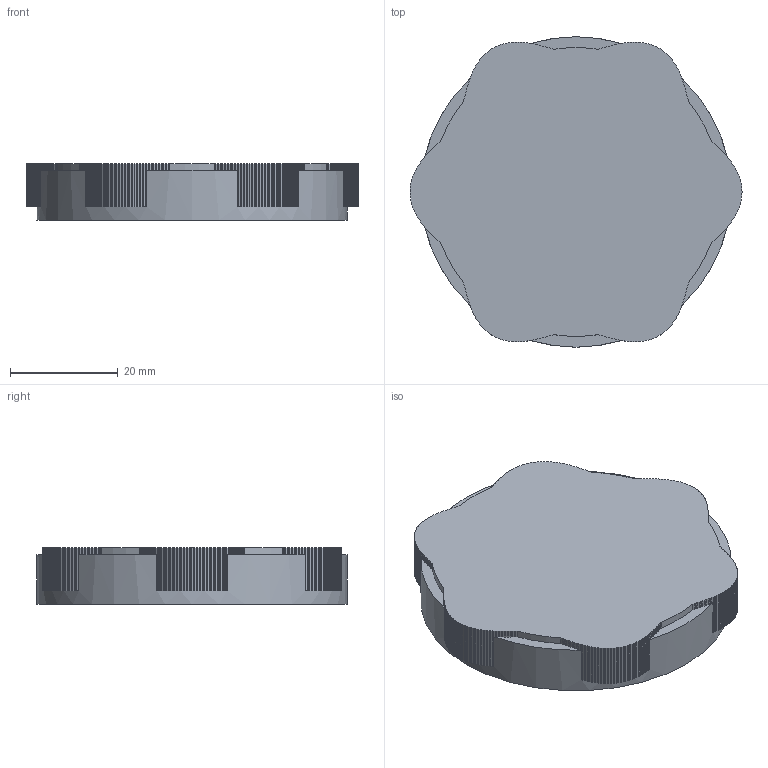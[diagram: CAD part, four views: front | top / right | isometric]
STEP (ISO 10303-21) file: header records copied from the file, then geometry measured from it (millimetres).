
FILE_DESCRIPTION(('Open CASCADE Model'),'2;1');
FILE_NAME('Open CASCADE Shape Model','2026-11-03T18:39:03',('Author'),( 'Open CASCADE'),'Open CASCADE STEP processor 7.9','Open CASCADE 7.9' ,'Unknown');
FILE_SCHEMA(('AUTOMOTIVE_DESIGN { 1 0 10303 214 1 1 1 1 }'));
Length unit declared in the file: millimetre
Products named in the file (1): Open CASCADE STEP translator 7.9 6
Bounding box: 61.6 x 57.6 x 10.5 mm (x, y, z)
Volume: 8864.4 mm3; surface area: 8930.3 mm2
Topology: 1 solids, 1 shells, 545 faces, 1617 edges, 1078 vertices
Faces by surface type: plane 534, cylinder 11
Full cylindrical faces by diameter (mm): 5.2 x1, 7 x1, 50 x1, 51.95 x1, 57.6 x1
Entity records: 38487 total; most frequent: CARTESIAN_POINT 6985, DIRECTION 5512, LINE 4327, VECTOR 4327, ORIENTED_EDGE 3234, PCURVE 3234, DEFINITIONAL_REPRESENTATION 3234, EDGE_CURVE 1617
